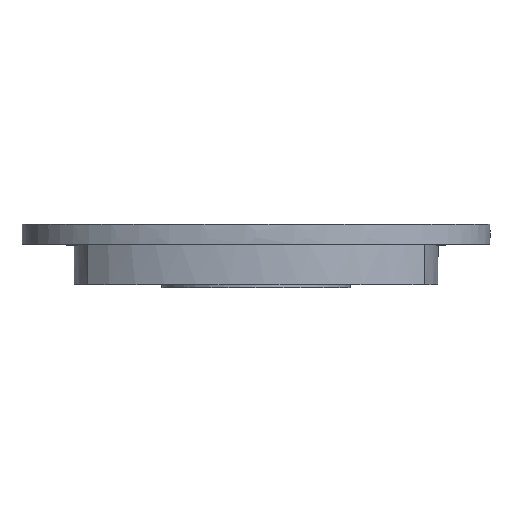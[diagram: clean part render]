
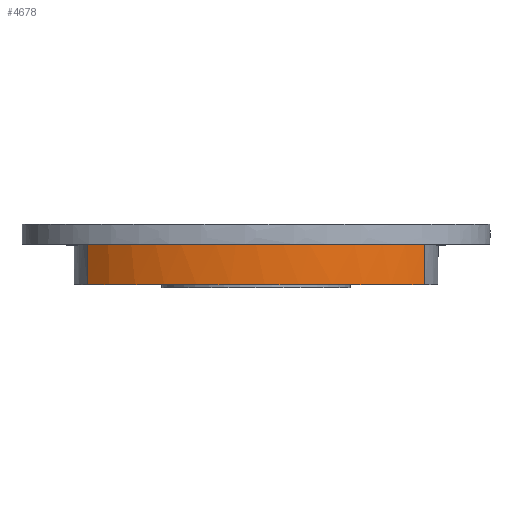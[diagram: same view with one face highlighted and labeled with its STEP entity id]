
A CAD part, front view. The second image highlights one B-rep face of the part: STEP entity #4678.
In plain terms, the highlighted free-form (B-spline) face has degree [1, 2] with [2, 5] control points.
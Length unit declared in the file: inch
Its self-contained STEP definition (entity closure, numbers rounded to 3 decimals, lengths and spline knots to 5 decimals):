
#15=(
BOUNDED_SURFACE()
B_SPLINE_SURFACE(1,2,((#8931,#8932,#8933,#8934,#8935),(#8936,#8937,#8938,
#8939,#8940)),.UNSPECIFIED.,.F.,.F.,.F.)
B_SPLINE_SURFACE_WITH_KNOTS((2,2),(3,2,3),(0.,0.1999),(-2.5539,
-1.5708,-0.58769),.UNSPECIFIED.)
GEOMETRIC_REPRESENTATION_ITEM()
RATIONAL_B_SPLINE_SURFACE(((1.,0.882,1.,0.882,1.),
(1.,0.882,1.,0.882,1.)))
REPRESENTATION_ITEM('')
SURFACE()
);
#451=B_SPLINE_CURVE_WITH_KNOTS('',3,(#8942,#8943,#8944,#8945,#8946,#8947,
#8948,#8949),.UNSPECIFIED.,.F.,.F.,(4,2,2,4),(-4.73866,-4.09665,
-1.71713,0.),.UNSPECIFIED.);
#452=B_SPLINE_CURVE_WITH_KNOTS('',3,(#8951,#8952,#8953,#8954,#8955,#8956,
#8957,#8958),.UNSPECIFIED.,.F.,.F.,(4,2,2,4),(-9.05296,-7.94664,
-6.73152,-4.73866),.UNSPECIFIED.);
#515=ELLIPSE('',#4769,2.5,1.545);
#870=FACE_OUTER_BOUND('',#1179,.T.);
#1179=EDGE_LOOP('',(#4252,#4253,#4254,#4255,#4256));
#1551=LINE('',#8929,#1857);
#1553=LINE('',#8959,#1859);
#1857=VECTOR('',#5560,0.3937);
#1859=VECTOR('',#5562,0.3937);
#1933=VERTEX_POINT('',#5593);
#1935=VERTEX_POINT('',#5596);
#2365=VERTEX_POINT('',#8911);
#2367=VERTEX_POINT('',#8941);
#2368=VERTEX_POINT('',#8950);
#2382=EDGE_CURVE('',#1935,#1933,#515,.T.);
#3000=EDGE_CURVE('',#1933,#2365,#1551,.T.);
#3002=EDGE_CURVE('',#2367,#2365,#451,.T.);
#3003=EDGE_CURVE('',#2368,#2367,#452,.T.);
#3004=EDGE_CURVE('',#1935,#2368,#1553,.T.);
#4252=ORIENTED_EDGE('',*,*,#3002,.F.);
#4253=ORIENTED_EDGE('',*,*,#3003,.F.);
#4254=ORIENTED_EDGE('',*,*,#3004,.F.);
#4255=ORIENTED_EDGE('',*,*,#2382,.T.);
#4256=ORIENTED_EDGE('',*,*,#3000,.T.);
#4678=ADVANCED_FACE('',(#870),#15,.F.);
#4769=AXIS2_PLACEMENT_3D('',#5597,#4956,#4957);
#4956=DIRECTION('center_axis',(0.,0.,1.));
#4957=DIRECTION('ref_axis',(1.,0.,0.));
#5560=DIRECTION('',(0.,0.,1.));
#5562=DIRECTION('',(0.,0.,1.));
#5593=CARTESIAN_POINT('',(2.08056,-0.85661,0.));
#5596=CARTESIAN_POINT('',(-2.08056,-0.85661,0.));
#5597=CARTESIAN_POINT('Origin',(0.,0.,0.));
#8911=CARTESIAN_POINT('',(2.08056,-0.85661,0.49976));
#8929=CARTESIAN_POINT('',(2.08056,-0.85661,0.));
#8931=CARTESIAN_POINT('Ctrl Pts',(-2.08056,-0.85661,
0.));
#8932=CARTESIAN_POINT('Ctrl Pts',(-1.33846,-1.545,0.));
#8933=CARTESIAN_POINT('Ctrl Pts',(0.,-1.545,0.));
#8934=CARTESIAN_POINT('Ctrl Pts',(1.33846,-1.545,0.));
#8935=CARTESIAN_POINT('Ctrl Pts',(2.08056,-0.85661,0.));
#8936=CARTESIAN_POINT('Ctrl Pts',(-2.08056,-0.85661,
0.49976));
#8937=CARTESIAN_POINT('Ctrl Pts',(-1.33846,-1.545,0.49976));
#8938=CARTESIAN_POINT('Ctrl Pts',(0.,-1.545,0.49976));
#8939=CARTESIAN_POINT('Ctrl Pts',(1.33846,-1.545,0.49976));
#8940=CARTESIAN_POINT('Ctrl Pts',(2.08056,-0.85661,0.49976));
#8941=CARTESIAN_POINT('',(0.,-1.545,0.49727));
#8942=CARTESIAN_POINT('Ctrl Pts',(0.,-1.545,0.49727));
#8943=CARTESIAN_POINT('Ctrl Pts',(0.11191,-1.545,0.49727));
#8944=CARTESIAN_POINT('Ctrl Pts',(0.22349,-1.54035,0.49731));
#8945=CARTESIAN_POINT('Ctrl Pts',(0.74328,-1.49706,0.49767));
#8946=CARTESIAN_POINT('Ctrl Pts',(1.13172,-1.40105,0.49843));
#8947=CARTESIAN_POINT('Ctrl Pts',(1.7074,-1.14347,0.49935));
#8948=CARTESIAN_POINT('Ctrl Pts',(1.91535,-1.00986,0.49962));
#8949=CARTESIAN_POINT('Ctrl Pts',(2.08056,-0.85661,0.49976));
#8950=CARTESIAN_POINT('',(-2.08056,-0.85661,0.49976));
#8951=CARTESIAN_POINT('Ctrl Pts',(-2.08056,-0.85661,
0.49976));
#8952=CARTESIAN_POINT('Ctrl Pts',(-1.94173,-0.9854,0.49964));
#8953=CARTESIAN_POINT('Ctrl Pts',(-1.7808,-1.09288,0.49945));
#8954=CARTESIAN_POINT('Ctrl Pts',(-1.42759,-1.27711,0.49892));
#8955=CARTESIAN_POINT('Ctrl Pts',(-1.22926,-1.35223,0.49857));
#8956=CARTESIAN_POINT('Ctrl Pts',(-0.69799,-1.50034,0.49772));
#8957=CARTESIAN_POINT('Ctrl Pts',(-0.34738,-1.545,0.49727));
#8958=CARTESIAN_POINT('Ctrl Pts',(0.,-1.545,0.49727));
#8959=CARTESIAN_POINT('',(-2.08056,-0.85661,0.));
